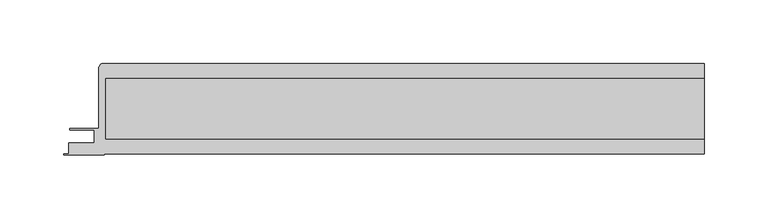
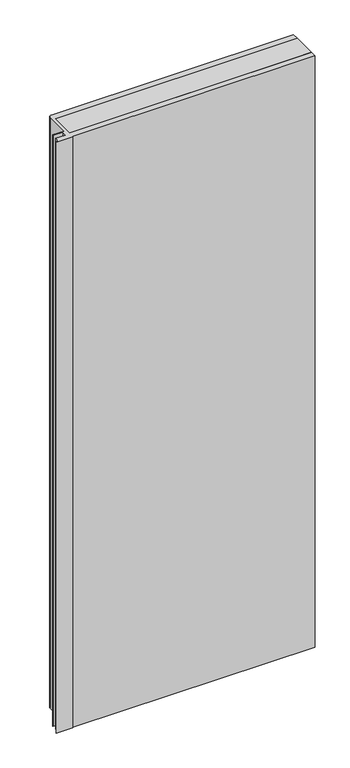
"""IFC4 building model written with IfcOpenShell, lengths in millimetres: plate geometry, Walls_External-Walls_Danpal_Danpatherm-K7-with-AIRPT-Frame : Walls_External-Walls_Danpal_Danpatherm-K7-with-AIRPT-Frame."""

from ifc_helpers import new_model, si_unit, point, frame, frame_2d, origin, place, context, project, spatial, polyline, circle_curve, trimmed, segment, composite_curve, outline, extrude, source, transform, mapped, element, save


def plate_395f4c65(model_context):
    return source(origin(), model_context, "Body", "SweptSolid", [
        extrude(outline(polyline([(-232.7129481, 60.3432727), (238.309327, 60.3432727), (238.309327, 12.7999917), (-232.7129481, 12.7999917), (-232.7129481, 60.3432727)])), frame((0.0, 0.0, -22.0), z_axis=(0.0, 0.0, 1.0), x_axis=(1.0, 0.0, 0.0)), (0.0, 0.0, 1.0), 1216.459327),
        extrude(outline(composite_curve([segment(polyline([(-234.4664181, 72.343285), (238.309327, 72.343285), (238.309327, 60.3432727), (-232.7129481, 60.3432727), (-232.7129481, 12.7999917), (238.309327, 12.7999917), (238.309327, 0.8), (-234.0523184, 0.8), (-234.0523184, 0.0), (-265.9523184, 0.0), (-265.9523184, 0.8), (-261.7523184, 0.8), (-261.7523184, 9.7656785), (-241.9225586, 9.7656785), (-241.9225586, 19.6715177), (-260.8787043, 19.6715177), (-260.8787043, 20.9715623), (-238.309327, 20.9715623), (-238.309327, 68.5003761)]), True, "CONTINUOUS"), segment(trimmed(circle_curve(frame_2d((-234.4664181, 68.5003761)), 3.8429089), [point((-238.309327, 68.5003761))], [point((-234.4664181, 72.343285))], False, "CARTESIAN"), True, "CONTINUOUS")], self_intersect=False)), frame((0.0, 0.0, -22.0), z_axis=(0.0, 0.0, 1.0), x_axis=(1.0, 0.0, 0.0)), (0.0, 0.0, 1.0), 1216.459327),
    ])


if __name__ == "__main__":
    model = new_model("IFC4")
    model_context = context("Model", 3, world=origin())
    ifc_project = project(units=[si_unit("LENGTHUNIT", "METRE", prefix="MILLI")], contexts=[model_context])
    site = spatial("IfcSite", under=ifc_project)
    building = spatial("IfcBuilding", under=site)
    placement = place(None, origin())
    plate_shape = plate_395f4c65(model_context)
    element("IfcPlate", 1, ObjectType="Walls_External-Walls_Danpal_Danpatherm-K7-with-AIRPT-Frame : Walls_External-Walls_Danpal_Danpatherm-K7-with-AIRPT-Frame", at=placement, inside=building, context=model_context, shape_type="MappedRepresentation", body=[
        mapped(plate_shape, transform((0.0, 0.0, 0.0), x_axis=(1.0, 0.0, 0.0), y_axis=(0.0, 1.0, 0.0), z_axis=(0.0, 0.0, 1.0))),
    ])
    save(model, "model.ifc")
